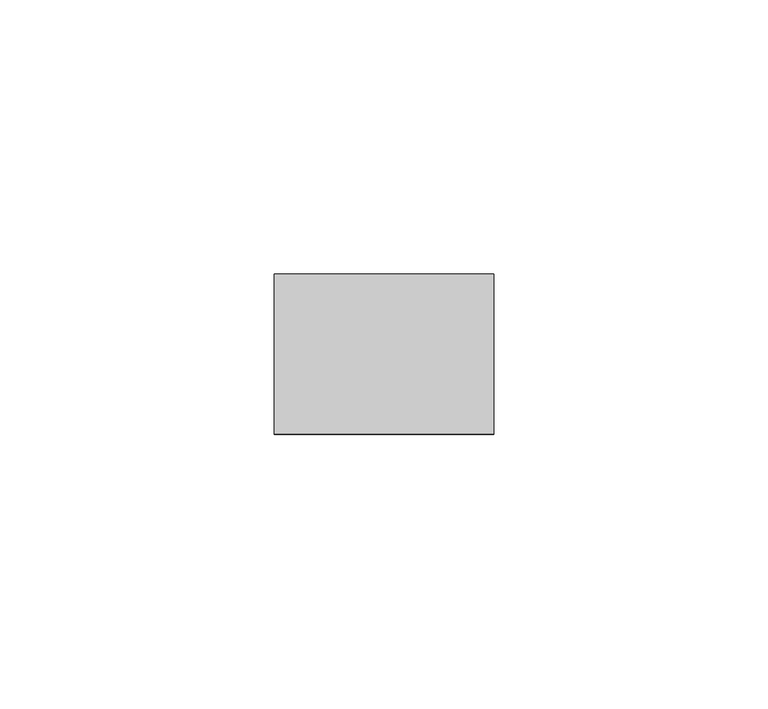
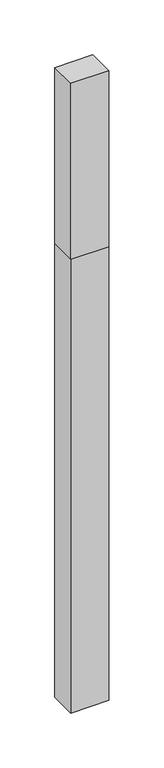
"""IFC4 building model written with IfcOpenShell, lengths in millimetres: proxy geometry, Aussenleuchten : Aussenleuchten."""

from ifc_helpers import new_model, si_unit, frame, origin, origin_with_axes, place, context, project, spatial, polyline, outline, extrude, source, transform, mapped, element, save


def electrical_equipment_8076ec5c(model_context):
    return source(origin(), model_context, "Body", "SweptSolid", [
        extrude(outline(polyline([(20.0, -13.6826532), (-20.0, -13.6826532), (-20.0, 15.5014771), (20.0, 15.5014771), (20.0, -13.6826532)])), frame((0.0, 0.0, 504.5288932), z_axis=(0.0, 0.0, 1.0), x_axis=(1.0, 0.0, 0.0)), (0.0, 0.0, 1.0), 195.4711068),
        extrude(outline(polyline([(20.0, -13.6826532), (-20.0, -13.6826532), (-20.0, 15.5014771), (20.0, 15.5014771), (20.0, -13.6826532)])), origin_with_axes(), (0.0, 0.0, 1.0), 504.5288932),
    ])


if __name__ == "__main__":
    model = new_model("IFC4")
    model_context = context("Model", 3, world=origin())
    ifc_project = project(units=[si_unit("LENGTHUNIT", "METRE", prefix="MILLI")], contexts=[model_context])
    site = spatial("IfcSite", under=ifc_project)
    building = spatial("IfcBuilding", under=site)
    placement = place(None, origin())
    electrical_equipment_shape = electrical_equipment_8076ec5c(model_context)
    element("IfcBuildingElementProxy", 1, Name="Aussenleuchten : Aussenleuchten", ObjectType="Aussenleuchten : Aussenleuchten", at=placement, inside=building, context=model_context, shape_type="MappedRepresentation", body=[
        mapped(electrical_equipment_shape, transform((0.0, 0.0, 0.0), x_axis=(1.0, 0.0, 0.0), y_axis=(0.0, 1.0, 0.0), z_axis=(0.0, 0.0, 1.0))),
    ])
    save(model, "model.ifc")
